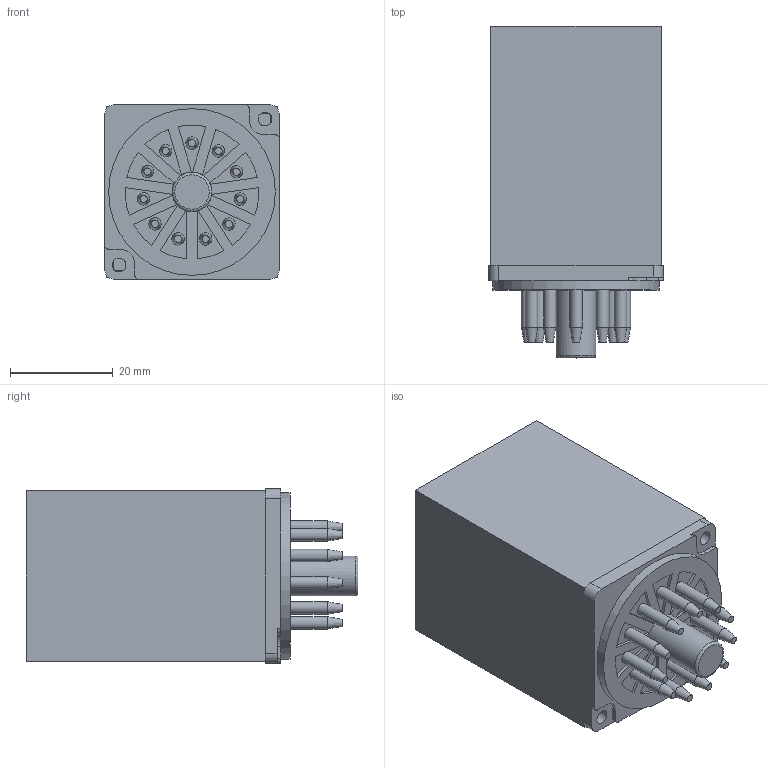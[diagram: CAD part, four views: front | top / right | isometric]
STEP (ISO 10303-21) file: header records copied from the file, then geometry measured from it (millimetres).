
FILE_DESCRIPTION(/* description */ (''),/* implementation_level */ '2;1');
FILE_NAME(/* name */ 'E:\Inventor 2016\제품 외형도\\X2\B9B4B808C774\X0\\콘트롤 릴레이\YS MR05-3P.stp',/* time_stamp */ '2019-04-09T10:11:13+09:00',/* author */ ('Kim'),/* organization */ (''),/* preprocessor_version */ 'ST-DEVELOPER v16.1',/* originating_system */ 'Autodesk Inventor 2016',/* authorisation */ '');
FILE_SCHEMA (('AUTOMOTIVE_DESIGN { 1 0 10303 214 3 1 1 }'));
Length unit declared in the file: millimetre
Products named in the file (3): MR 하부 (11p); COVER; YS MR05-3P
Assembly tree (2 placements, depth 2):
  YS MR05-3P
    MR 하부 (11p)
    COVER
Bounding box: 34 x 64.5 x 34 mm (x, y, z)
Volume: 15109.6 mm3; surface area: 18377.6 mm2
Topology: 2 solids, 2 shells, 131 faces, 327 edges, 214 vertices
Faces by surface type: plane 79, cylinder 40, cone 11, torus 1
Full cylindrical faces by diameter (mm): 2.4 x11, 2.7 x2, 7.7 x1, 32.4 x1
Entity records: 3878 total; most frequent: DIRECTION 684, CARTESIAN_POINT 644, ORIENTED_EDGE 594, EDGE_CURVE 297, AXIS2_PLACEMENT_3D 251, VERTEX_POINT 211, LINE 182, VECTOR 182
